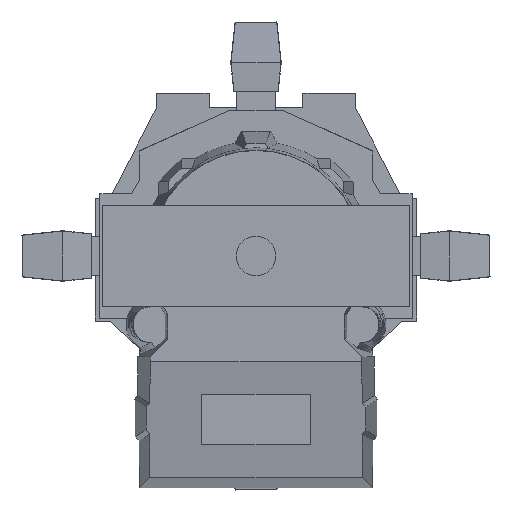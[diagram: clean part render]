
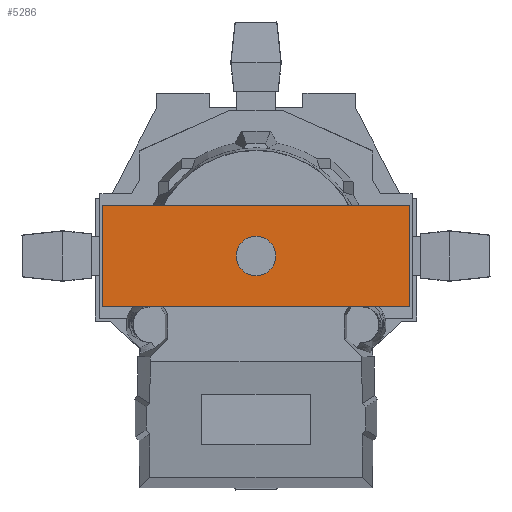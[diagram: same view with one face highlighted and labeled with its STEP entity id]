
A CAD part, left-side view. The second image highlights one B-rep face of the part: STEP entity #5286.
In plain terms, the highlighted planar face has unit normal (-1, 0, 0) as drawn and (0, 0, -1) by its records, which use the part's own axes.
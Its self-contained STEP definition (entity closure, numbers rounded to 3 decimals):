
#199=FACE_BOUND('',#509,.T.);
#212=FACE_OUTER_BOUND('',#508,.T.);
#508=EDGE_LOOP('',(#3458,#3459,#3460,#3461));
#509=EDGE_LOOP('',(#3462,#3463));
#815=CIRCLE('',#5612,5.5);
#816=CIRCLE('',#5613,5.5);
#842=LINE('',#7138,#1491);
#847=LINE('',#7156,#1496);
#848=LINE('',#7158,#1497);
#849=LINE('',#7159,#1498);
#1491=VECTOR('',#5905,10.);
#1496=VECTOR('',#5920,10.);
#1497=VECTOR('',#5921,10.);
#1498=VECTOR('',#5922,10.);
#2139=VERTEX_POINT('',#7132);
#2141=VERTEX_POINT('',#7136);
#2149=VERTEX_POINT('',#7155);
#2150=VERTEX_POINT('',#7157);
#2151=VERTEX_POINT('',#7160);
#2152=VERTEX_POINT('',#7161);
#2653=EDGE_CURVE('',#2139,#2141,#842,.T.);
#2661=EDGE_CURVE('',#2149,#2141,#847,.T.);
#2662=EDGE_CURVE('',#2150,#2149,#848,.T.);
#2663=EDGE_CURVE('',#2150,#2139,#849,.T.);
#2664=EDGE_CURVE('',#2151,#2152,#815,.T.);
#2665=EDGE_CURVE('',#2152,#2151,#816,.T.);
#3458=ORIENTED_EDGE('',*,*,#2653,.T.);
#3459=ORIENTED_EDGE('',*,*,#2661,.F.);
#3460=ORIENTED_EDGE('',*,*,#2662,.F.);
#3461=ORIENTED_EDGE('',*,*,#2663,.T.);
#3462=ORIENTED_EDGE('',*,*,#2664,.F.);
#3463=ORIENTED_EDGE('',*,*,#2665,.F.);
#5043=PLANE('',#5611);
#5286=ADVANCED_FACE('',(#212,#199),#5043,.F.);
#5611=AXIS2_PLACEMENT_3D('',#7154,#5918,#5919);
#5612=AXIS2_PLACEMENT_3D('',#7162,#5923,#5924);
#5613=AXIS2_PLACEMENT_3D('',#7163,#5925,#5926);
#5905=DIRECTION('',(0.,-1.,0.));
#5918=DIRECTION('center_axis',(0.,0.,1.));
#5919=DIRECTION('ref_axis',(1.,0.,0.));
#5920=DIRECTION('',(1.,0.,0.));
#5921=DIRECTION('',(0.,-1.,0.));
#5922=DIRECTION('',(1.,0.,0.));
#5923=DIRECTION('center_axis',(0.,0.,-1.));
#5924=DIRECTION('ref_axis',(-1.,0.,0.));
#5925=DIRECTION('center_axis',(0.,0.,-1.));
#5926=DIRECTION('ref_axis',(-1.,0.,0.));
#7132=CARTESIAN_POINT('',(42.5,14.061,0.));
#7136=CARTESIAN_POINT('',(42.5,-14.061,0.));
#7138=CARTESIAN_POINT('',(42.5,7.,0.));
#7154=CARTESIAN_POINT('Origin',(0.,0.,0.));
#7155=CARTESIAN_POINT('',(-42.5,-14.061,0.));
#7156=CARTESIAN_POINT('',(-21.25,-14.061,0.));
#7157=CARTESIAN_POINT('',(-42.5,14.061,0.));
#7158=CARTESIAN_POINT('',(-42.5,-7.,0.));
#7159=CARTESIAN_POINT('',(-21.25,14.061,0.));
#7160=CARTESIAN_POINT('',(-5.5,0.,0.));
#7161=CARTESIAN_POINT('',(5.5,0.,0.));
#7162=CARTESIAN_POINT('Origin',(0.,0.,0.));
#7163=CARTESIAN_POINT('Origin',(0.,0.,0.));
